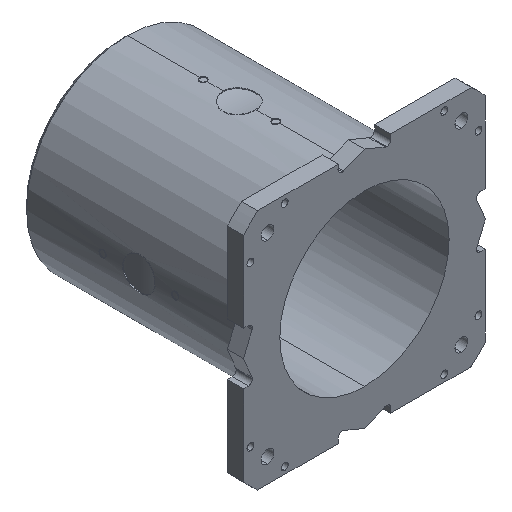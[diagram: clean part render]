
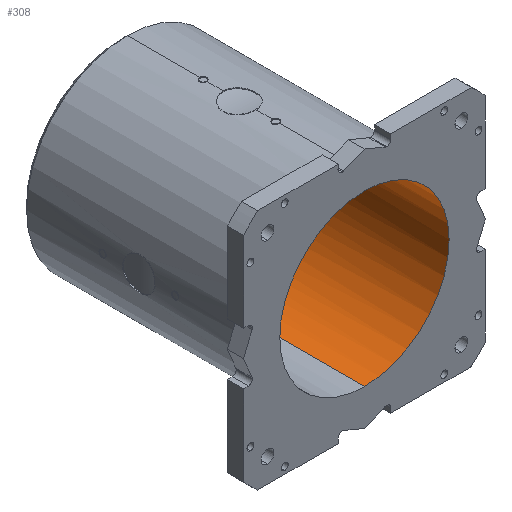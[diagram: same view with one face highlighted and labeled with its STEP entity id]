
A CAD part, isometric view. The second image highlights one B-rep face of the part: STEP entity #308.
In plain terms, the highlighted cylindrical face has radius 105 mm (diameter 210 mm), a partial arc.
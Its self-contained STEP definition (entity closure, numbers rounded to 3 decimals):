
#190 = CARTESIAN_POINT ( 'NONE',  ( 0., 0., -105. ) ) ;
#249 = DIRECTION ( 'NONE',  ( 0., 0., -1. ) ) ;
#256 = EDGE_CURVE ( 'NONE', #10402, #6756, #5370, .T. ) ;
#305 = CARTESIAN_POINT ( 'NONE',  ( 0., 282., 0. ) ) ;
#308 = ADVANCED_FACE ( 'NONE', ( #457 ), #2906, .F. ) ;
#311 = ORIENTED_EDGE ( 'NONE', *, *, #1743, .F. ) ;
#450 = CARTESIAN_POINT ( 'NONE',  ( 0., 282., -105. ) ) ;
#457 = FACE_OUTER_BOUND ( 'NONE', #9893, .T. ) ;
#553 = DIRECTION ( 'NONE',  ( 0., -1., 0. ) ) ;
#690 = AXIS2_PLACEMENT_3D ( 'NONE', #3438, #2645, #4028 ) ;
#1021 = CARTESIAN_POINT ( 'NONE',  ( 57.845, 282., 87.63 ) ) ;
#1331 = CIRCLE ( 'NONE', #4581, 105. ) ;
#1454 = VERTEX_POINT ( 'NONE', #10260 ) ;
#1477 = CARTESIAN_POINT ( 'NONE',  ( 0., 282., 0. ) ) ;
#1491 = AXIS2_PLACEMENT_3D ( 'NONE', #9600, #8161, #1727 ) ;
#1616 = EDGE_CURVE ( 'NONE', #5088, #10407, #5731, .T. ) ;
#1628 = CIRCLE ( 'NONE', #7225, 105. ) ;
#1727 = DIRECTION ( 'NONE',  ( 0., 0., -1. ) ) ;
#1743 = EDGE_CURVE ( 'NONE', #7496, #7295, #1628, .T. ) ;
#1870 = ORIENTED_EDGE ( 'NONE', *, *, #3306, .F. ) ;
#1889 = ORIENTED_EDGE ( 'NONE', *, *, #3701, .F. ) ;
#1902 = CIRCLE ( 'NONE', #3962, 105. ) ;
#1938 = EDGE_CURVE ( 'NONE', #6946, #3094, #6068, .T. ) ;
#2000 = CARTESIAN_POINT ( 'NONE',  ( 0., 0., 0. ) ) ;
#2096 = CARTESIAN_POINT ( 'NONE',  ( 0., 282., 0. ) ) ;
#2142 = AXIS2_PLACEMENT_3D ( 'NONE', #305, #7623, #249 ) ;
#2470 = DIRECTION ( 'NONE',  ( 0., 0., -1. ) ) ;
#2496 = CARTESIAN_POINT ( 'NONE',  ( 76.483, 282., 71.94 ) ) ;
#2645 = DIRECTION ( 'NONE',  ( 0., -1., 0. ) ) ;
#2649 = CARTESIAN_POINT ( 'NONE',  ( 0., 282., 0. ) ) ;
#2694 = DIRECTION ( 'NONE',  ( 0., -1., 0. ) ) ;
#2906 = CYLINDRICAL_SURFACE ( 'NONE', #4016, 105. ) ;
#3000 = DIRECTION ( 'NONE',  ( 0., 0., -1. ) ) ;
#3094 = VERTEX_POINT ( 'NONE', #4911 ) ;
#3215 = CARTESIAN_POINT ( 'NONE',  ( 71.94, 282., 76.483 ) ) ;
#3247 = CIRCLE ( 'NONE', #690, 105. ) ;
#3268 = CARTESIAN_POINT ( 'NONE',  ( 0., 282., 0. ) ) ;
#3306 = EDGE_CURVE ( 'NONE', #7295, #3094, #9514, .T. ) ;
#3368 = VECTOR ( 'NONE', #4488, 1000. ) ;
#3438 = CARTESIAN_POINT ( 'NONE',  ( 0., 282., 0. ) ) ;
#3464 = EDGE_CURVE ( 'NONE', #1454, #7496, #6095, .T. ) ;
#3503 = DIRECTION ( 'NONE',  ( 0., 0., -1. ) ) ;
#3606 = DIRECTION ( 'NONE',  ( 0., -1., 0. ) ) ;
#3701 = EDGE_CURVE ( 'NONE', #8719, #10402, #7122, .T. ) ;
#3748 = VERTEX_POINT ( 'NONE', #7819 ) ;
#3893 = ORIENTED_EDGE ( 'NONE', *, *, #7537, .F. ) ;
#3962 = AXIS2_PLACEMENT_3D ( 'NONE', #1477, #8233, #4896 ) ;
#4016 = AXIS2_PLACEMENT_3D ( 'NONE', #2000, #5256, #3503 ) ;
#4028 = DIRECTION ( 'NONE',  ( 0., 0., -1. ) ) ;
#4222 = ORIENTED_EDGE ( 'NONE', *, *, #1938, .T. ) ;
#4283 = EDGE_CURVE ( 'NONE', #5088, #6946, #7462, .T. ) ;
#4430 = ORIENTED_EDGE ( 'NONE', *, *, #1616, .F. ) ;
#4451 = CARTESIAN_POINT ( 'NONE',  ( 65.645, 282., 81.95 ) ) ;
#4488 = DIRECTION ( 'NONE',  ( 0., -1., 0. ) ) ;
#4581 = AXIS2_PLACEMENT_3D ( 'NONE', #8468, #2694, #6092 ) ;
#4645 = CIRCLE ( 'NONE', #5317, 105. ) ;
#4896 = DIRECTION ( 'NONE',  ( 0., 0., -1. ) ) ;
#4911 = CARTESIAN_POINT ( 'NONE',  ( 0., 0., 105. ) ) ;
#4989 = DIRECTION ( 'NONE',  ( 0., -1., 0. ) ) ;
#5088 = VERTEX_POINT ( 'NONE', #450 ) ;
#5256 = DIRECTION ( 'NONE',  ( 0., -1., 0. ) ) ;
#5317 = AXIS2_PLACEMENT_3D ( 'NONE', #3268, #4989, #2470 ) ;
#5352 = CARTESIAN_POINT ( 'NONE',  ( 0., 282., 105. ) ) ;
#5365 = ORIENTED_EDGE ( 'NONE', *, *, #10297, .F. ) ;
#5370 = CIRCLE ( 'NONE', #2142, 105. ) ;
#5372 = AXIS2_PLACEMENT_3D ( 'NONE', #6978, #553, #6200 ) ;
#5731 = CIRCLE ( 'NONE', #7398, 105. ) ;
#5747 = DIRECTION ( 'NONE',  ( 0., -1., 0. ) ) ;
#6068 = CIRCLE ( 'NONE', #5372, 105. ) ;
#6092 = DIRECTION ( 'NONE',  ( 0., 0., -1. ) ) ;
#6095 = CIRCLE ( 'NONE', #1491, 105. ) ;
#6120 = EDGE_CURVE ( 'NONE', #3748, #8719, #3247, .T. ) ;
#6198 = DIRECTION ( 'NONE',  ( 0., -1., 0. ) ) ;
#6200 = DIRECTION ( 'NONE',  ( 0., 0., -1. ) ) ;
#6460 = ORIENTED_EDGE ( 'NONE', *, *, #8642, .F. ) ;
#6464 = CARTESIAN_POINT ( 'NONE',  ( 71.94, 282., -76.483 ) ) ;
#6573 = CARTESIAN_POINT ( 'NONE',  ( 0., 282., 0. ) ) ;
#6680 = DIRECTION ( 'NONE',  ( 0., -1., 0. ) ) ;
#6756 = VERTEX_POINT ( 'NONE', #9719 ) ;
#6946 = VERTEX_POINT ( 'NONE', #9142 ) ;
#6978 = CARTESIAN_POINT ( 'NONE',  ( 0., 0., 0. ) ) ;
#7122 = CIRCLE ( 'NONE', #7473, 105. ) ;
#7225 = AXIS2_PLACEMENT_3D ( 'NONE', #2649, #3606, #10046 ) ;
#7295 = VERTEX_POINT ( 'NONE', #5352 ) ;
#7398 = AXIS2_PLACEMENT_3D ( 'NONE', #6573, #5747, #9868 ) ;
#7462 = LINE ( 'NONE', #190, #7652 ) ;
#7473 = AXIS2_PLACEMENT_3D ( 'NONE', #2096, #6198, #3000 ) ;
#7496 = VERTEX_POINT ( 'NONE', #1021 ) ;
#7537 = EDGE_CURVE ( 'NONE', #6756, #7561, #1331, .T. ) ;
#7561 = VERTEX_POINT ( 'NONE', #4451 ) ;
#7623 = DIRECTION ( 'NONE',  ( 0., -1., 0. ) ) ;
#7652 = VECTOR ( 'NONE', #6680, 1000. ) ;
#7778 = ORIENTED_EDGE ( 'NONE', *, *, #6120, .F. ) ;
#7819 = CARTESIAN_POINT ( 'NONE',  ( 76.483, 282., -71.94 ) ) ;
#7857 = CARTESIAN_POINT ( 'NONE',  ( 0., 0., 105. ) ) ;
#8161 = DIRECTION ( 'NONE',  ( 0., -1., 0. ) ) ;
#8233 = DIRECTION ( 'NONE',  ( 0., -1., 0. ) ) ;
#8468 = CARTESIAN_POINT ( 'NONE',  ( 0., 282., 0. ) ) ;
#8642 = EDGE_CURVE ( 'NONE', #7561, #1454, #1902, .T. ) ;
#8719 = VERTEX_POINT ( 'NONE', #2496 ) ;
#9142 = CARTESIAN_POINT ( 'NONE',  ( 0., 0., -105. ) ) ;
#9360 = ORIENTED_EDGE ( 'NONE', *, *, #3464, .F. ) ;
#9514 = LINE ( 'NONE', #7857, #3368 ) ;
#9600 = CARTESIAN_POINT ( 'NONE',  ( 0., 282., 0. ) ) ;
#9719 = CARTESIAN_POINT ( 'NONE',  ( 69.052, 282., 79.1 ) ) ;
#9790 = ORIENTED_EDGE ( 'NONE', *, *, #256, .F. ) ;
#9868 = DIRECTION ( 'NONE',  ( 0., 0., -1. ) ) ;
#9893 = EDGE_LOOP ( 'NONE', ( #1870, #311, #9360, #6460, #3893, #9790, #1889, #7778, #5365, #4430, #10087, #4222 ) ) ;
#10046 = DIRECTION ( 'NONE',  ( 0., 0., -1. ) ) ;
#10087 = ORIENTED_EDGE ( 'NONE', *, *, #4283, .T. ) ;
#10260 = CARTESIAN_POINT ( 'NONE',  ( 63.2, 282., 83.85 ) ) ;
#10297 = EDGE_CURVE ( 'NONE', #10407, #3748, #4645, .T. ) ;
#10402 = VERTEX_POINT ( 'NONE', #3215 ) ;
#10407 = VERTEX_POINT ( 'NONE', #6464 ) ;
